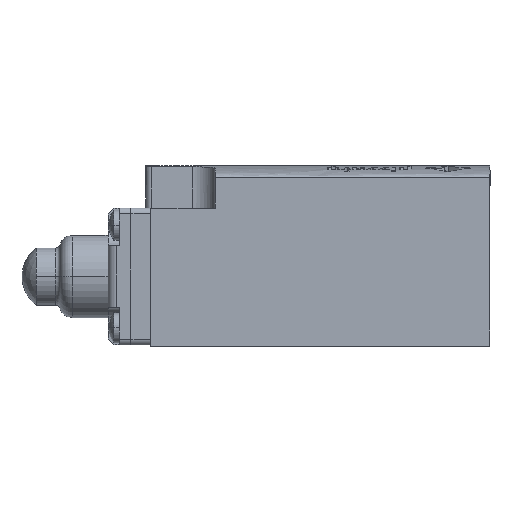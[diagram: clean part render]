
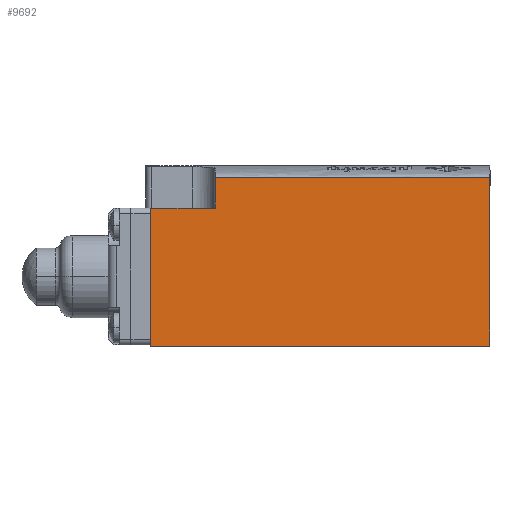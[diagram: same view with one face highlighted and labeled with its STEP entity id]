
A CAD part, left-side view. The second image highlights one B-rep face of the part: STEP entity #9692.
In plain terms, the highlighted planar face has unit normal (-1, 0, 0).
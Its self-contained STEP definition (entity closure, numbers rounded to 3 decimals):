
#71 = DIRECTION ( 'NONE',  ( 0., 0., 1. ) ) ;
#116 = EDGE_LOOP ( 'NONE', ( #4455, #5622, #17200, #3935, #2714, #13278 ) ) ;
#161 = VERTEX_POINT ( 'NONE', #14596 ) ;
#603 = VECTOR ( 'NONE', #15701, 1000. ) ;
#688 = CARTESIAN_POINT ( 'NONE',  ( -15.6, -31.5, 17.4 ) ) ;
#775 = VERTEX_POINT ( 'NONE', #11843 ) ;
#857 = CARTESIAN_POINT ( 'NONE',  ( -15.6, 28., 12. ) ) ;
#1135 = VERTEX_POINT ( 'NONE', #11192 ) ;
#1785 = CARTESIAN_POINT ( 'NONE',  ( -15.6, -31.5, 19.4 ) ) ;
#1960 = CARTESIAN_POINT ( 'NONE',  ( -15.6, -31.5, -12.2 ) ) ;
#2162 = LINE ( 'NONE', #857, #9842 ) ;
#2559 = VERTEX_POINT ( 'NONE', #4223 ) ;
#2714 = ORIENTED_EDGE ( 'NONE', *, *, #2784, .T. ) ;
#2784 = EDGE_CURVE ( 'NONE', #2559, #4521, #3861, .T. ) ;
#3092 = AXIS2_PLACEMENT_3D ( 'NONE', #1785, #7024, #13584 ) ;
#3179 = LINE ( 'NONE', #1960, #4500 ) ;
#3414 = EDGE_CURVE ( 'NONE', #5897, #161, #12581, .T. ) ;
#3861 = LINE ( 'NONE', #11975, #14537 ) ;
#3935 = ORIENTED_EDGE ( 'NONE', *, *, #12186, .F. ) ;
#4223 = CARTESIAN_POINT ( 'NONE',  ( -15.6, 28., 12. ) ) ;
#4324 = FACE_OUTER_BOUND ( 'NONE', #116, .T. ) ;
#4455 = ORIENTED_EDGE ( 'NONE', *, *, #10616, .F. ) ;
#4500 = VECTOR ( 'NONE', #11229, 1000. ) ;
#4521 = VERTEX_POINT ( 'NONE', #14609 ) ;
#5622 = ORIENTED_EDGE ( 'NONE', *, *, #3414, .T. ) ;
#5745 = CARTESIAN_POINT ( 'NONE',  ( -15.6, -15.433, 17.4 ) ) ;
#5897 = VERTEX_POINT ( 'NONE', #688 ) ;
#6781 = EDGE_CURVE ( 'NONE', #775, #161, #10487, .T. ) ;
#7024 = DIRECTION ( 'NONE',  ( 1., 0., 0. ) ) ;
#9158 = CARTESIAN_POINT ( 'NONE',  ( -15.6, 16.7, 12. ) ) ;
#9230 = LINE ( 'NONE', #11851, #603 ) ;
#9360 = DIRECTION ( 'NONE',  ( 0., 0., -1. ) ) ;
#9692 = ADVANCED_FACE ( 'NONE', ( #4324 ), #13506, .F. ) ;
#9842 = VECTOR ( 'NONE', #16746, 1000. ) ;
#10487 = LINE ( 'NONE', #9158, #12358 ) ;
#10616 = EDGE_CURVE ( 'NONE', #5897, #1135, #9230, .T. ) ;
#10838 = EDGE_CURVE ( 'NONE', #4521, #1135, #3179, .T. ) ;
#11079 = CARTESIAN_POINT ( 'NONE',  ( -15.6, 0.633, 17.4 ) ) ;
#11192 = CARTESIAN_POINT ( 'NONE',  ( -15.6, -31.5, -12.2 ) ) ;
#11229 = DIRECTION ( 'NONE',  ( 0., -1., 0. ) ) ;
#11843 = CARTESIAN_POINT ( 'NONE',  ( -15.6, 16.7, 12. ) ) ;
#11851 = CARTESIAN_POINT ( 'NONE',  ( -15.6, -31.5, 19.4 ) ) ;
#11975 = CARTESIAN_POINT ( 'NONE',  ( -15.6, 28., 19.4 ) ) ;
#12186 = EDGE_CURVE ( 'NONE', #2559, #775, #2162, .T. ) ;
#12358 = VECTOR ( 'NONE', #71, 1000. ) ;
#12391 = CARTESIAN_POINT ( 'NONE',  ( -15.6, -31.5, 17.4 ) ) ;
#12562 = CARTESIAN_POINT ( 'NONE',  ( -15.6, 16.7, 17.4 ) ) ;
#12581 = B_SPLINE_CURVE_WITH_KNOTS ( 'NONE', 3,
 ( #12391, #5745, #11079, #12562 ),
 .UNSPECIFIED., .F., .F.,
 ( 4, 4 ),
 ( 0., 1. ),
 .UNSPECIFIED. ) ;
#13278 = ORIENTED_EDGE ( 'NONE', *, *, #10838, .T. ) ;
#13506 = PLANE ( 'NONE',  #3092 ) ;
#13584 = DIRECTION ( 'NONE',  ( 0., 1., 0. ) ) ;
#14537 = VECTOR ( 'NONE', #9360, 1000. ) ;
#14596 = CARTESIAN_POINT ( 'NONE',  ( -15.6, 16.7, 17.4 ) ) ;
#14609 = CARTESIAN_POINT ( 'NONE',  ( -15.6, 28., -12.2 ) ) ;
#15701 = DIRECTION ( 'NONE',  ( 0., 0., -1. ) ) ;
#16746 = DIRECTION ( 'NONE',  ( 0., -1., 0. ) ) ;
#17200 = ORIENTED_EDGE ( 'NONE', *, *, #6781, .F. ) ;
